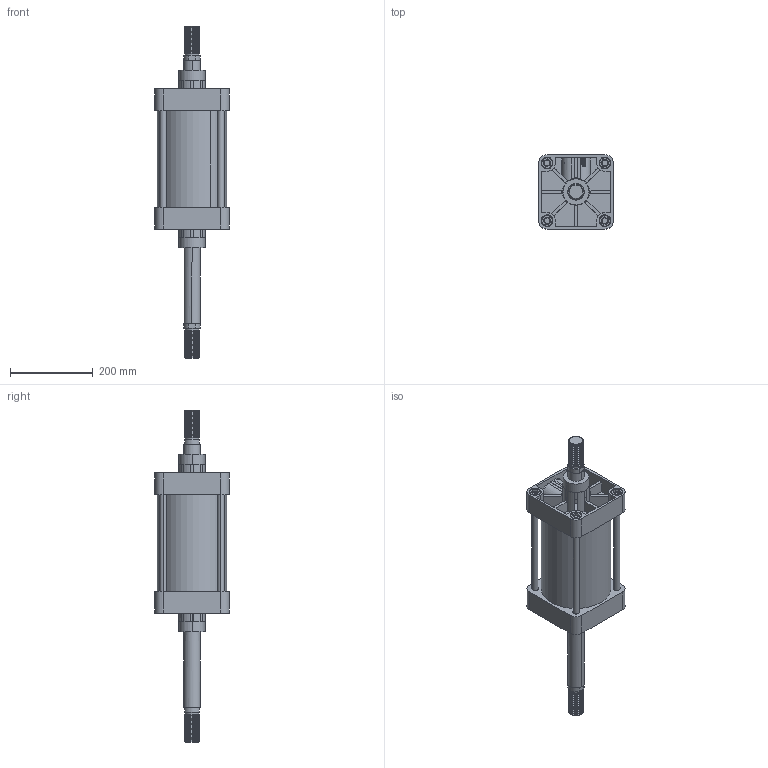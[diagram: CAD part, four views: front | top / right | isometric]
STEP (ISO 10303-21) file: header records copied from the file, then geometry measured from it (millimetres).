
FILE_DESCRIPTION (( 'STEP AP203' ), '1' );
FILE_NAME ('XJ160.0160P.STEP', '2005-09-27T08:53:51', ( 'luigip' ), ( '' ), 'SwSTEP 2.0', 'SolidWorks 2005187', '' );
FILE_SCHEMA (( 'CONFIG_CONTROL_DESIGN' ));
Length unit declared in the file: millimetre
Products named in the file (5): FRONT END CAP-XJ160; XJ160.0160P; BARREL-XJ160_STROKE 0160P; PISTON ROD-XJ160_STROKE 0160P; TIE ROD-XJ160_STROKE 0160P
Assembly tree (8 placements, depth 2):
  XJ160.0160P
    FRONT END CAP-XJ160  x2
    TIE ROD-XJ160_STROKE 0160P  x4
    BARREL-XJ160_STROKE 0160P
    PISTON ROD-XJ160_STROKE 0160P
Bounding box: 180 x 180 x 804 mm (x, y, z)
Volume: 5004104.3 mm3; surface area: 920213 mm2
Topology: 8 solids, 10 shells, 1762 faces, 3768 edges, 2076 vertices
Faces by surface type: cone 1006, cylinder 482, plane 262, torus 12
Entity records: 31079 total; most frequent: DIRECTION 5919, CARTESIAN_POINT 5099, ORIENTED_EDGE 4894, EDGE_CURVE 2447, AXIS2_PLACEMENT_3D 2318, VERTEX_POINT 1324, VECTOR 1283, LINE 1283
